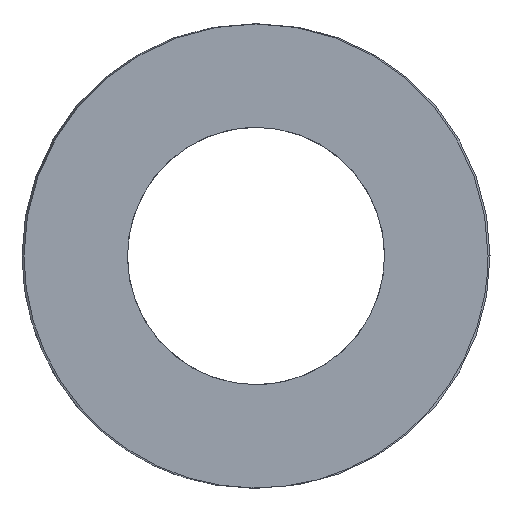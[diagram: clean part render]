
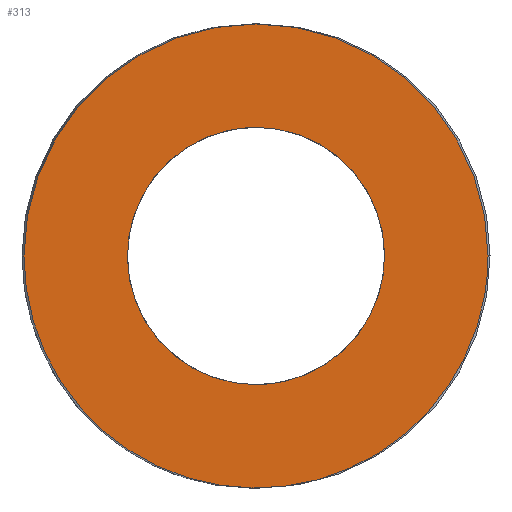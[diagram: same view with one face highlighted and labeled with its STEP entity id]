
A CAD part, left-side view. The second image highlights one B-rep face of the part: STEP entity #313.
In plain terms, the highlighted planar face has unit normal (-1, 0, 0).
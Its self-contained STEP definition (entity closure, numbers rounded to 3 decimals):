
#63=CARTESIAN_POINT('Vertex',(0.,9.2,0.)) ;
#89=CARTESIAN_POINT('Vertex',(0.,-9.2,0.)) ;
#93=CARTESIAN_POINT('Control Point',(0.,9.2,0.)) ;
#94=CARTESIAN_POINT('Control Point',(0.,9.2,-1.445)) ;
#95=CARTESIAN_POINT('Control Point',(0.,8.916,-2.89)) ;
#96=CARTESIAN_POINT('Control Point',(0.,8.348,-4.261)) ;
#97=CARTESIAN_POINT('Control Point',(0.,6.706,-6.706)) ;
#98=CARTESIAN_POINT('Control Point',(0.,4.261,-8.348)) ;
#99=CARTESIAN_POINT('Control Point',(0.,2.89,-8.916)) ;
#100=CARTESIAN_POINT('Control Point',(0.,0.,-9.484)) ;
#101=CARTESIAN_POINT('Control Point',(0.,-2.89,-8.916)) ;
#102=CARTESIAN_POINT('Control Point',(0.,-4.261,-8.348)) ;
#103=CARTESIAN_POINT('Control Point',(0.,-6.706,-6.706)) ;
#104=CARTESIAN_POINT('Control Point',(0.,-8.348,-4.261)) ;
#105=CARTESIAN_POINT('Control Point',(0.,-8.916,-2.89)) ;
#106=CARTESIAN_POINT('Control Point',(0.,-9.2,-1.445)) ;
#107=CARTESIAN_POINT('Control Point',(0.,-9.2,0.)) ;
#121=CARTESIAN_POINT('Axis2P3D Location',(0.,0.,0.)) ;
#250=CARTESIAN_POINT('Axis2P3D Location',(0.,4.6,0.)) ;
#260=CARTESIAN_POINT('Control Point',(0.,0.,-5.1)) ;
#261=CARTESIAN_POINT('Control Point',(0.,0.553,-5.1)) ;
#262=CARTESIAN_POINT('Control Point',(0.,1.106,-5.025)) ;
#263=CARTESIAN_POINT('Control Point',(0.,1.646,-4.875)) ;
#264=CARTESIAN_POINT('Control Point',(0.,2.671,-4.432)) ;
#265=CARTESIAN_POINT('Control Point',(0.,3.541,-3.733)) ;
#266=CARTESIAN_POINT('Control Point',(0.,3.926,-3.326)) ;
#267=CARTESIAN_POINT('Control Point',(0.,4.575,-2.418)) ;
#268=CARTESIAN_POINT('Control Point',(0.,4.96,-1.37)) ;
#269=CARTESIAN_POINT('Control Point',(0.,5.079,-0.822)) ;
#270=CARTESIAN_POINT('Control Point',(0.,5.167,0.291)) ;
#271=CARTESIAN_POINT('Control Point',(0.,4.955,1.387)) ;
#272=CARTESIAN_POINT('Control Point',(0.,4.775,1.917)) ;
#273=CARTESIAN_POINT('Control Point',(0.,4.275,2.916)) ;
#274=CARTESIAN_POINT('Control Point',(0.,3.528,3.745)) ;
#275=CARTESIAN_POINT('Control Point',(0.,3.1,4.106)) ;
#276=CARTESIAN_POINT('Control Point',(0.,2.255,4.642)) ;
#277=CARTESIAN_POINT('Control Point',(0.,1.309,4.959)) ;
#278=CARTESIAN_POINT('Control Point',(0.,0.877,5.053)) ;
#279=CARTESIAN_POINT('Control Point',(0.,0.439,5.1)) ;
#280=CARTESIAN_POINT('Control Point',(0.,0.,5.1)) ;
#281=CARTESIAN_POINT('Vertex',(0.,0.,-5.1)) ;
#283=CARTESIAN_POINT('Vertex',(0.,0.,5.1)) ;
#287=CARTESIAN_POINT('Control Point',(0.,0.,5.1)) ;
#288=CARTESIAN_POINT('Control Point',(0.,-0.553,5.1)) ;
#289=CARTESIAN_POINT('Control Point',(0.,-1.106,5.025)) ;
#290=CARTESIAN_POINT('Control Point',(0.,-1.646,4.875)) ;
#291=CARTESIAN_POINT('Control Point',(0.,-2.671,4.432)) ;
#292=CARTESIAN_POINT('Control Point',(0.,-3.541,3.733)) ;
#293=CARTESIAN_POINT('Control Point',(0.,-3.926,3.326)) ;
#294=CARTESIAN_POINT('Control Point',(0.,-4.575,2.418)) ;
#295=CARTESIAN_POINT('Control Point',(0.,-4.96,1.37)) ;
#296=CARTESIAN_POINT('Control Point',(0.,-5.079,0.822)) ;
#297=CARTESIAN_POINT('Control Point',(0.,-5.167,-0.291)) ;
#298=CARTESIAN_POINT('Control Point',(0.,-4.955,-1.387)) ;
#299=CARTESIAN_POINT('Control Point',(0.,-4.775,-1.917)) ;
#300=CARTESIAN_POINT('Control Point',(0.,-4.275,-2.916)) ;
#301=CARTESIAN_POINT('Control Point',(0.,-3.528,-3.745)) ;
#302=CARTESIAN_POINT('Control Point',(0.,-3.1,-4.106)) ;
#303=CARTESIAN_POINT('Control Point',(0.,-2.255,-4.642)) ;
#304=CARTESIAN_POINT('Control Point',(0.,-1.309,-4.959)) ;
#305=CARTESIAN_POINT('Control Point',(0.,-0.877,-5.053)) ;
#306=CARTESIAN_POINT('Control Point',(0.,-0.439,-5.1)) ;
#307=CARTESIAN_POINT('Control Point',(0.,0.,-5.1)) ;
#122=DIRECTION('Axis2P3D Direction',(1.,-0.,0.)) ;
#251=DIRECTION('Axis2P3D Direction',(-1.,0.,0.)) ;
#252=DIRECTION('Axis2P3D XDirection',(0.,1.,0.)) ;
#123=AXIS2_PLACEMENT_3D('Circle Axis2P3D',#121,#122,$) ;
#253=AXIS2_PLACEMENT_3D('Plane Axis2P3D',#250,#251,#252) ;
#256=ORIENTED_EDGE('',*,*,#108,.T.) ;
#257=ORIENTED_EDGE('',*,*,#125,.T.) ;
#310=ORIENTED_EDGE('',*,*,#285,.T.) ;
#311=ORIENTED_EDGE('',*,*,#308,.T.) ;
#312=FACE_BOUND('',#309,.T.) ;
#313=ADVANCED_FACE('392-B20-038',(#258,#312),#254,.T.) ;
#92=B_SPLINE_CURVE_WITH_KNOTS('',5,(#93,#94,#95,#96,#97,#98,#99,#100,#101,#102,#103,#104,#105,#106,#107),.UNSPECIFIED.,.F.,.U.,(6,3,3,3,6),(-14.451,-7.226,0.,7.226,14.451),.UNSPECIFIED.) ;
#259=B_SPLINE_CURVE_WITH_KNOTS('',5,(#260,#261,#262,#263,#264,#265,#266,#267,#268,#269,#270,#271,#272,#273,#274,#275,#276,#277,#278,#279,#280),.UNSPECIFIED.,.F.,.U.,(6,3,3,3,3,3,6),(0.,3.911,7.823,11.734,15.646,19.557,22.658),.UNSPECIFIED.) ;
#286=B_SPLINE_CURVE_WITH_KNOTS('',5,(#287,#288,#289,#290,#291,#292,#293,#294,#295,#296,#297,#298,#299,#300,#301,#302,#303,#304,#305,#306,#307),.UNSPECIFIED.,.F.,.U.,(6,3,3,3,3,3,6),(0.,3.911,7.823,11.734,15.646,19.557,22.658),.UNSPECIFIED.) ;
#124=CIRCLE('generated circle',#123,9.2) ;
#108=EDGE_CURVE('',#64,#90,#92,.T.) ;
#125=EDGE_CURVE('',#90,#64,#124,.F.) ;
#285=EDGE_CURVE('',#282,#284,#259,.T.) ;
#308=EDGE_CURVE('',#284,#282,#286,.T.) ;
#255=EDGE_LOOP('',(#256,#257)) ;
#309=EDGE_LOOP('',(#310,#311)) ;
#258=FACE_OUTER_BOUND('',#255,.T.) ;
#254=PLANE('Plane',#253) ;
#64=VERTEX_POINT('',#63) ;
#90=VERTEX_POINT('',#89) ;
#282=VERTEX_POINT('',#281) ;
#284=VERTEX_POINT('',#283) ;
